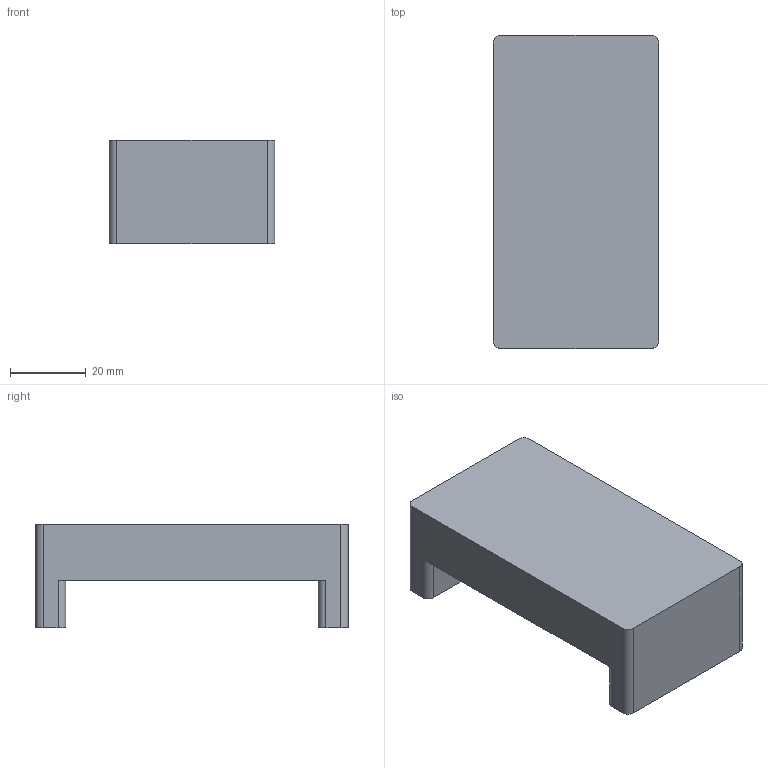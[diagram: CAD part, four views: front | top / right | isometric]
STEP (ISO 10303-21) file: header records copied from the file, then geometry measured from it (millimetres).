
FILE_DESCRIPTION (( 'STEP AP214' ), '1' );
FILE_NAME ('FM3 Top Fixture.STEP', '2021-01-13T16:39:58', ( '' ), ( '' ), 'SwSTEP 2.0', 'SolidWorks 2018', '' );
FILE_SCHEMA (( 'AUTOMOTIVE_DESIGN' ));
Length unit declared in the file: millimetre
Products named in the file (1): FM3 Top Fixture
Bounding box: 43.8 x 82.73 x 27.45 mm (x, y, z)
Volume: 62733.6 mm3; surface area: 13620.9 mm2
Topology: 1 solids, 1 shells, 24 faces, 64 edges, 44 vertices
Faces by surface type: plane 12, cylinder 8, bspline 4
Entity records: 1190 total; most frequent: CARTESIAN_POINT 557, ORIENTED_EDGE 128, DIRECTION 118, EDGE_CURVE 64, VERTEX_POINT 44, AXIS2_PLACEMENT_3D 41, LINE 36, VECTOR 36
